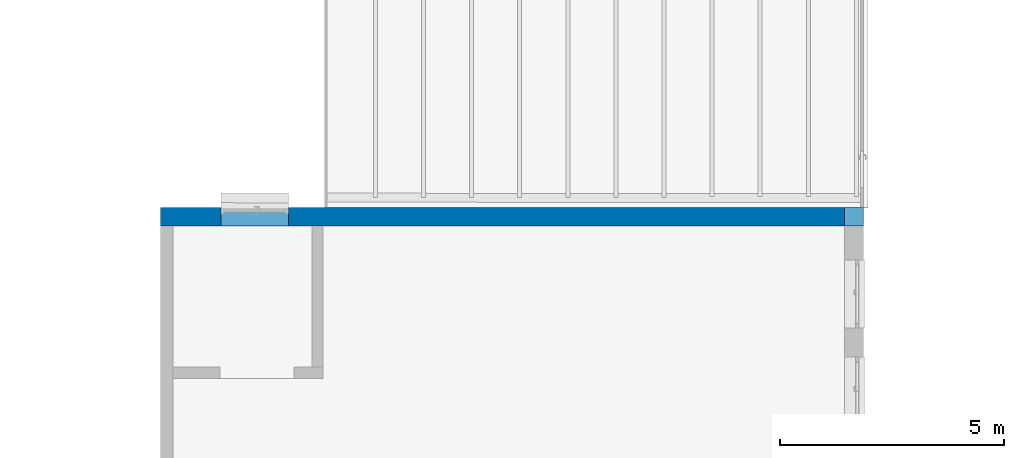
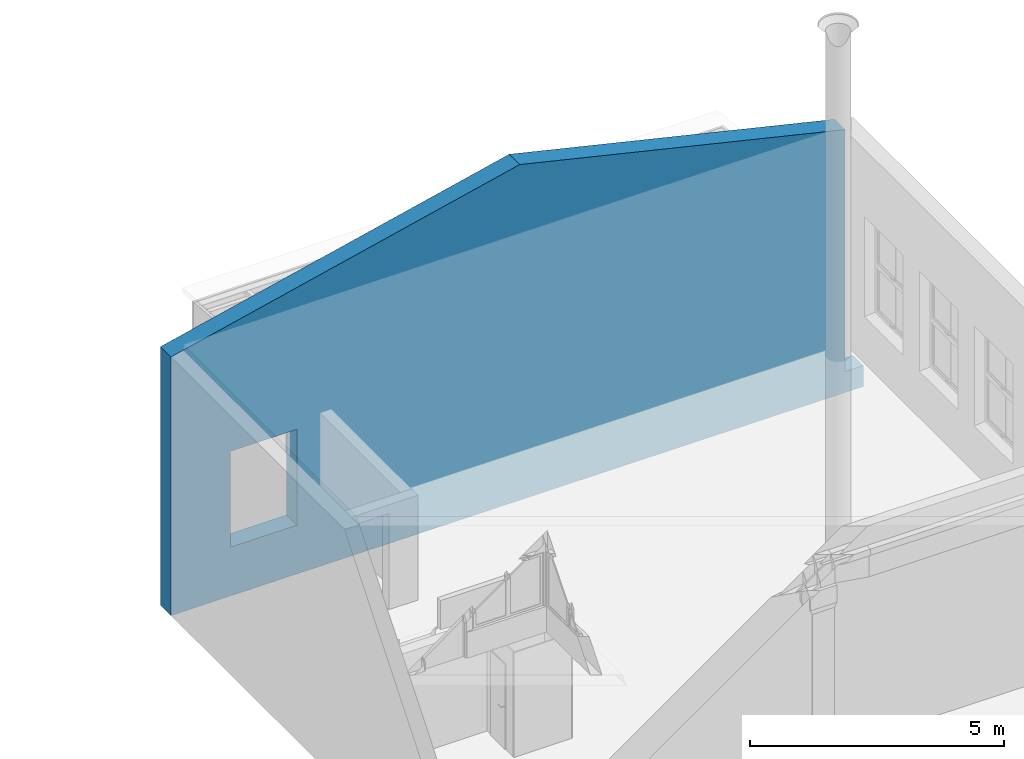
# One storey, part 172 of 301: 1 wall, 1 opening.
"""IFC2X3 building model written with IfcOpenShell, lengths in millimetres."""

from ifc_helpers import new_model, entity, si_unit, converted_unit, derived_unit, money_unit, direction, frame, origin_with_axes, place, context, subcontext, project, spatial, faceted_brep, material, type_object, element, save


model = new_model("IFC2X3")

# Units and contexts
model_context = context("Model", 3, precision=0.01, world=origin_with_axes(), true_north=direction((0.0, 1.0)))
body_context = subcontext(model_context, "Body", "Model", "MODEL_VIEW")
ifc_project = project(units=[si_unit("LENGTHUNIT", "METRE", prefix="MILLI"), si_unit("AREAUNIT", "SQUARE_METRE"), si_unit("VOLUMEUNIT", "CUBIC_METRE"), converted_unit("PLANEANGLEUNIT", "DEGREE", entity("IfcPlaneAngleMeasure", 0.0174532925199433), si_unit("PLANEANGLEUNIT", "RADIAN"), dimensions=[0, 0, 0, 0, 0, 0, 0]), money_unit("EUR"), converted_unit("TIMEUNIT", "Year", entity("IfcTimeMeasure", 31557600.0), si_unit("TIMEUNIT", "SECOND"), dimensions=[0, 0, 1, 0, 0, 0, 0]), si_unit("MASSUNIT", "GRAM", prefix="KILO"), si_unit("THERMODYNAMICTEMPERATUREUNIT", "DEGREE_CELSIUS"), si_unit("LUMINOUSINTENSITYUNIT", "LUMEN"), si_unit("ENERGYUNIT", "JOULE", prefix="MEGA"), derived_unit("THERMALCONDUCTANCEUNIT", [(si_unit("POWERUNIT", "WATT"), 1), (si_unit("LENGTHUNIT", "METRE"), -1), (si_unit("THERMODYNAMICTEMPERATUREUNIT", "KELVIN"), -1)]), derived_unit("SPECIFICHEATCAPACITYUNIT", [(si_unit("ENERGYUNIT", "JOULE"), 1), (si_unit("MASSUNIT", "GRAM", prefix="KILO"), -1), (si_unit("THERMODYNAMICTEMPERATUREUNIT", "KELVIN"), -1)]), derived_unit("MASSDENSITYUNIT", [(si_unit("MASSUNIT", "GRAM", prefix="KILO"), 1), (si_unit("VOLUMEUNIT", "CUBIC_METRE"), -1)])], contexts=[model_context])

# Site, building, storey
site_placement = place(None, frame((0.0, 0.0, 8650.0), z_axis=(0.0, 0.0, 1.0), x_axis=(1.0, 0.0, 0.0)))
site = spatial("IfcSite", under=ifc_project, at=site_placement, Name="43301:001:0844", CompositionType="ELEMENT")
building_placement = place(site_placement, origin_with_axes())
building = spatial("IfcBuilding", under=site, at=building_placement, Name="Kuressaare Ametikooli tuulikute mehaanikute õppekorpus", CompositionType="ELEMENT")
storey_placement = place(building_placement, origin_with_axes())
storey = spatial("IfcBuildingStorey", under=building, at=storey_placement, Name="1.korrus", CompositionType="ELEMENT", Elevation=0.0)

# Wall, opening
ifc_material = material(Name="GENEERILINE - KONSTRUKTRIOON")
wall_type = type_object("IfcWallType", Name="GENEERILINE - KONSTRUKTRIOON 410", PredefinedType="NOTDEFINED")
wall_placement = place(storey_placement, frame((87938.837899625, 122743.6599731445, -1500.0), z_axis=(0.0, 0.0, 1.0), x_axis=(0.999999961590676, -0.0002771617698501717, 0.0)))
wall = element("IfcWall", 1, at=wall_placement, inside=storey, type_object=wall_type, material=ifc_material, Name="VS-XX", context=body_context, shape_type="Brep", body=[
    faceted_brep([(0.0, 0.0, 6205.345727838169), (7909.276286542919, 0.0, 8053.468595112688), (15288.67489463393, 0.0, 6309.271351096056), (15288.67489463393, 0.0, 500.0), (15708.67491076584, 0.0, 500.0), (15708.67491076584, 0.0, 400.0000000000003), (15708.67491076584, 0.0, 0.0), (0.0, 0.0, 0.0), (1349.55566317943, 0.0, 1170.0), (2854.555663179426, 0.0, 1170.0), (2854.555663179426, 0.0, 3470.0), (1349.55566317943, 0.0, 3470.0), (0.1104974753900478, -409.9999999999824, 6205.344994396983), (7909.389922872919, -409.9999999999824, 8053.468595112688), (15288.78853096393, -409.9999999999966, 6309.271351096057), (15288.78853096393, -409.9999999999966, 500.0), (15708.78854709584, -409.9999999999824, 500.0), (15708.78854709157, -409.9999999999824, 400.0000000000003), (15708.67491076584, -409.9999999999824, 0.0), (15708.67491076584, -409.9999999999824, 400.0000000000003), (0.1104974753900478, -409.9999999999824, 0.0), (1349.555663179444, -409.9999999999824, 1170.0), (2854.555663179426, -409.9999999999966, 1170.0), (2854.555663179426, -409.9999999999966, 3470.0), (1349.555663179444, -409.9999999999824, 3470.0)], [[[0, 1, 2, 3, 4, 5, 6, 7], [8, 9, 10, 11]], [[1, 0, 12, 13]], [[14, 2, 1, 13]], [[2, 14, 15, 3]], [[16, 4, 3, 15]], [[4, 16, 17, 5]], [[18, 6, 5, 19]], [[7, 6, 18, 20]], [[12, 0, 7, 20]], [[8, 21, 22, 9]], [[10, 9, 22, 23]], [[11, 10, 23, 24]], [[11, 24, 21, 8]], [[13, 12, 20, 18, 19, 17, 16, 15, 14], [22, 21, 24, 23]], [[5, 17, 19]]]),
])
opening_placement = place(wall_placement, frame((2102.055663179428, 0.0, 1170.0), z_axis=(0.0, 0.0, 1.0), x_axis=(1.0, 0.0, 0.0)))
element("IfcOpeningElement", 2, at=opening_placement, cuts=wall, context=body_context, shape_type="Brep", body=[
    faceted_brep([(-752.4999999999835, -30.00000000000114, 0.0), (-752.4999999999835, -30.00000000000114, 2300.0), (-752.4999999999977, 5.353843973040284, 2300.0), (-752.4999999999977, 5.353843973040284, 0.0), (-752.4999999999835, -415.3538439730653, 0.0), (-752.4999999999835, -415.3538439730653, 2300.0), (752.4999999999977, -30.00000000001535, 2300.0), (752.4999999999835, 5.353843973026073, 2300.0), (752.4999999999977, -415.3538439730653, 2300.0), (752.4999999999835, 5.353843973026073, 0.0), (752.4999999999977, -30.00000000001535, 0.0), (752.4999999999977, -415.3538439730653, 0.0)], [[[0, 1, 2, 3]], [[1, 0, 4, 5]], [[6, 7, 2, 1, 5, 8]], [[7, 9, 3, 2]], [[0, 3, 9, 10, 11, 4]], [[5, 4, 11, 8]], [[6, 10, 9, 7]], [[10, 6, 8, 11]]]),
])

save(model, "model.ifc")
